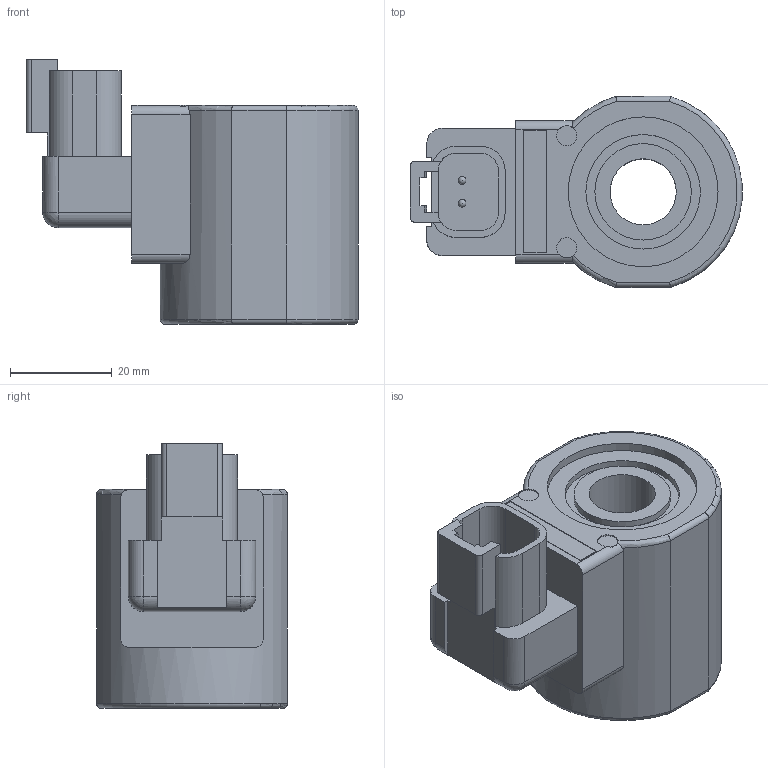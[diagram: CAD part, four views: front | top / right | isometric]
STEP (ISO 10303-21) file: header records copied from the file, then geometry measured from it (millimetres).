
FILE_DESCRIPTION((''),'2;1');
FILE_NAME('Q:\Delta CADD Insertion Codes\3D Solid models\Coils\STEP\PID.stp','2012-06-04T10:06:33',('Dan'),(''),'Autodesk Inventor 2012','Autodesk Inventor 2012','');
FILE_SCHEMA(('AUTOMOTIVE_DESIGN { 1 0 10303 214 1 1 1 1 }'));
Length unit declared in the file: inch
Products named in the file (1): Part28
Bounding box: 65.23 x 37.5 x 52 mm (x, y, z)
Volume: 56833 mm3; surface area: 13951.5 mm2
Topology: 1 solids, 1 shells, 101 faces, 270 edges, 176 vertices
Faces by surface type: plane 56, cylinder 36, torus 5, sphere 4
Full cylindrical faces by diameter (mm): 1.5 x2, 4 x2, 13.005 x1, 18.948 x2, 22.504 x2, 29.439 x1, 29.997 x1
Entity records: 3159 total; most frequent: CARTESIAN_POINT 708, DIRECTION 501, ORIENTED_EDGE 488, EDGE_CURVE 244, AXIS2_PLACEMENT_3D 173, VERTEX_POINT 164, VECTOR 155, LINE 155
